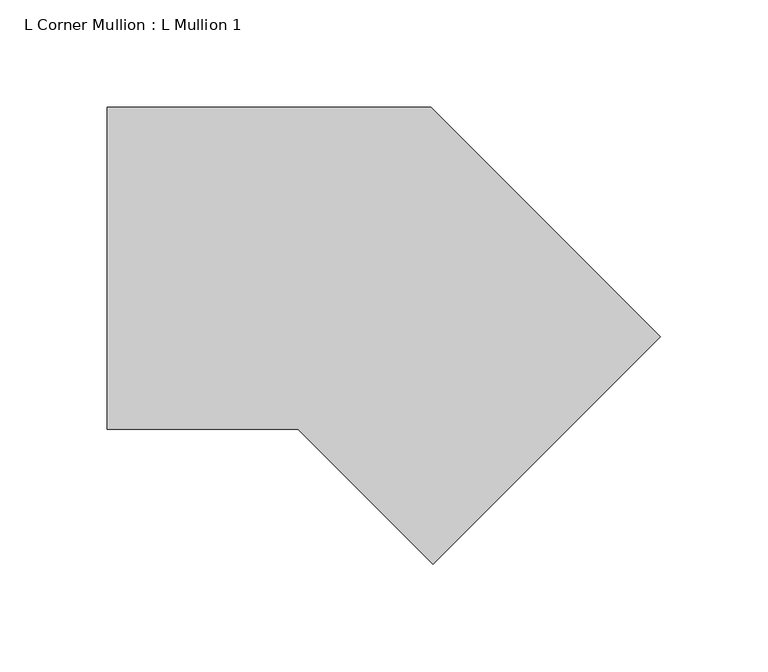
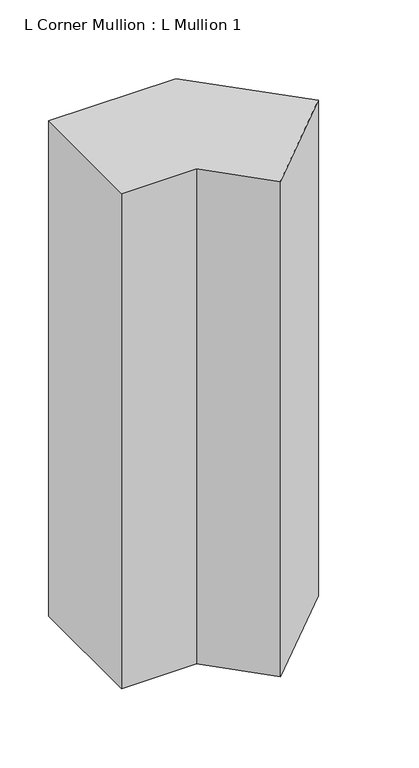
"""IFC4 building model written with IfcOpenShell, lengths in millimetres: member geometry, L Corner Mullion : L Mullion 1."""

from ifc_helpers import new_model, si_unit, frame, origin, place, context, project, spatial, polyline, outline, extrude, source, transform, mapped, element, save


def l_corner_mullion_l_mullion_1_32a30e72(model_context):
    return source(origin(), model_context, "Body", "SweptSolid", [
        extrude(outline(polyline([(20.636039, -164.8858223), (-42.2497834, -102.0), (-131.1837662, -102.0), (-131.1837662, 48.0), (19.882251, 48.0), (126.7020561, -58.8198052), (20.636039, -164.8858223)])), frame((0.0, 0.0, -620.0), z_axis=(0.0, 0.0, 1.0), x_axis=(1.0, 0.0, 0.0)), (0.0, 0.0, 1.0), 620.0),
    ])


if __name__ == "__main__":
    model = new_model("IFC4")
    model_context = context("Model", 3, world=origin())
    ifc_project = project(units=[si_unit("LENGTHUNIT", "METRE", prefix="MILLI")], contexts=[model_context])
    site = spatial("IfcSite", under=ifc_project)
    building = spatial("IfcBuilding", under=site)
    placement = place(None, origin())
    l_corner_mullion_l_mullion_1_shape = l_corner_mullion_l_mullion_1_32a30e72(model_context)
    element("IfcMember", 1, ObjectType="L Corner Mullion : L Mullion 1", at=placement, inside=building, context=model_context, shape_type="MappedRepresentation", body=[
        mapped(l_corner_mullion_l_mullion_1_shape, transform((0.0, 0.0, 0.0), x_axis=(1.0, 0.0, 0.0), y_axis=(0.0, 1.0, 0.0), z_axis=(0.0, 0.0, 1.0))),
    ])
    save(model, "model.ifc")
